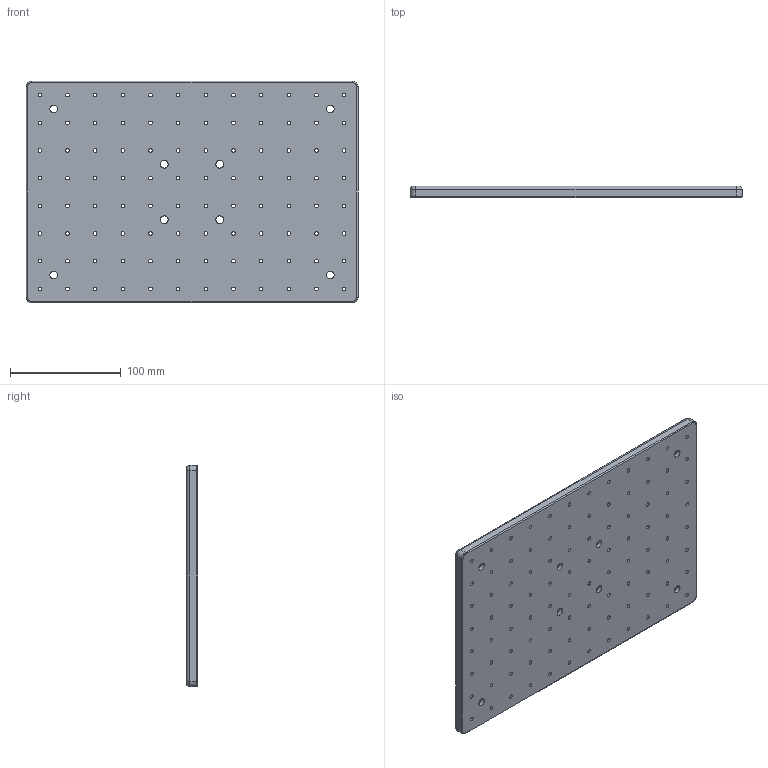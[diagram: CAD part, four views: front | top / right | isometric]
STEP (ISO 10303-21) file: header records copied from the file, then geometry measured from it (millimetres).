
FILE_DESCRIPTION (( 'STEP AP203' ), '1' );
FILE_NAME ('M-PNB-2030-10.step', '2017-01-10T01:12:25', ( '¦K¬P' ), ( '' ), 'SwSTEP 2.0', 'SolidWorks 2012', '' );
FILE_SCHEMA (( 'CONFIG_CONTROL_DESIGN' ));
Length unit declared in the file: millimetre
Products named in the file (1): M-PNB-2030-10
Bounding box: 300 x 10 x 200 mm (x, y, z)
Volume: 583481.3 mm3; surface area: 138262 mm2
Topology: 1 solids, 1 shells, 146 faces, 392 edges, 256 vertices
Faces by surface type: cylinder 124, plane 14, torus 8
Full cylindrical faces by diameter (mm): 3.3 x96, 7 x8, 11 x8
Entity records: 4637 total; most frequent: DIRECTION 830, CARTESIAN_POINT 683, ORIENTED_EDGE 560, EDGE_LOOP 474, AXIS2_PLACEMENT_3D 403, EDGE_CURVE 280, FACE_OUTER_BOUND 258, VERTEX_POINT 256
